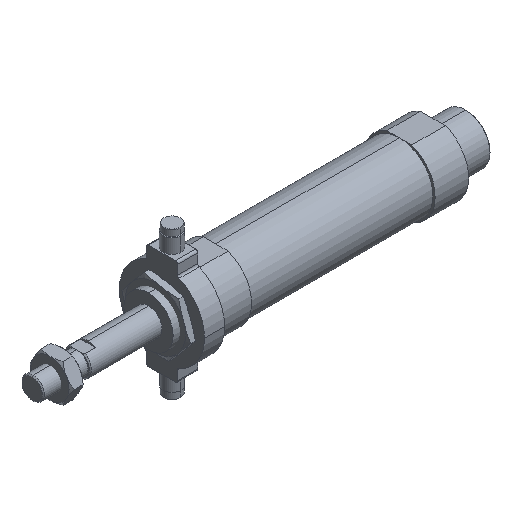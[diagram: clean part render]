
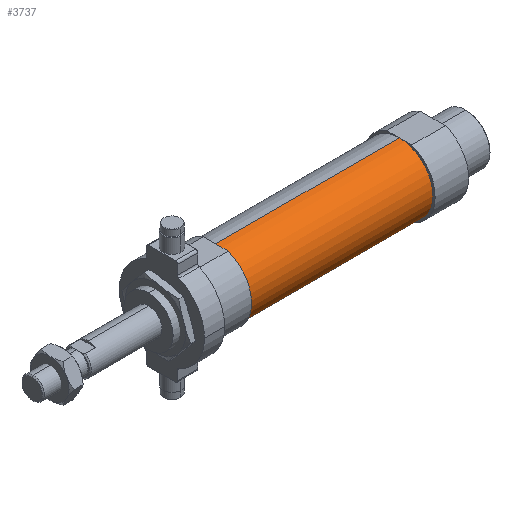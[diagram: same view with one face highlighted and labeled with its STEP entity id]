
A CAD part, isometric view. The second image highlights one B-rep face of the part: STEP entity #3737.
In plain terms, the highlighted cylindrical face has radius 15 mm (diameter 30 mm), a partial arc.
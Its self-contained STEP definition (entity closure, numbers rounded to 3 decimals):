
#32 = AXIS2_PLACEMENT_3D ( 'NONE', #1665, #3551, #1175 ) ;
#101 = VERTEX_POINT ( 'NONE', #748 ) ;
#143 = DIRECTION ( 'NONE',  ( -1., 0., 0. ) ) ;
#144 = EDGE_CURVE ( 'NONE', #101, #3558, #1957, .T. ) ;
#180 = ORIENTED_EDGE ( 'NONE', *, *, #2487, .T. ) ;
#226 = CARTESIAN_POINT ( 'NONE',  ( -6.469, 0., -15. ) ) ;
#282 = FACE_OUTER_BOUND ( 'NONE', #2853, .T. ) ;
#287 = DIRECTION ( 'NONE',  ( -1., 0., 0. ) ) ;
#291 = DIRECTION ( 'NONE',  ( 0., 0., 1. ) ) ;
#309 = VERTEX_POINT ( 'NONE', #1602 ) ;
#748 = CARTESIAN_POINT ( 'NONE',  ( 164., 0., -15. ) ) ;
#804 = DIRECTION ( 'NONE',  ( 0., 0., 1. ) ) ;
#808 = DIRECTION ( 'NONE',  ( -1., 0., 0. ) ) ;
#814 = AXIS2_PLACEMENT_3D ( 'NONE', #4444, #143, #804 ) ;
#876 = CARTESIAN_POINT ( 'NONE',  ( 82., 0., -15. ) ) ;
#1175 = DIRECTION ( 'NONE',  ( 0., 0., 1. ) ) ;
#1401 = ORIENTED_EDGE ( 'NONE', *, *, #3960, .T. ) ;
#1411 = VECTOR ( 'NONE', #287, 1000. ) ;
#1567 = AXIS2_PLACEMENT_3D ( 'NONE', #2090, #808, #291 ) ;
#1602 = CARTESIAN_POINT ( 'NONE',  ( 164., 0., 15. ) ) ;
#1665 = CARTESIAN_POINT ( 'NONE',  ( 164., 0., 0. ) ) ;
#1901 = CIRCLE ( 'NONE', #1567, 15. ) ;
#1957 = LINE ( 'NONE', #226, #3912 ) ;
#2090 = CARTESIAN_POINT ( 'NONE',  ( 82., 0., 0. ) ) ;
#2153 = CARTESIAN_POINT ( 'NONE',  ( 82., 0., 15. ) ) ;
#2227 = LINE ( 'NONE', #3751, #1411 ) ;
#2290 = CIRCLE ( 'NONE', #32, 15. ) ;
#2487 = EDGE_CURVE ( 'NONE', #309, #2775, #2227, .T. ) ;
#2563 = EDGE_CURVE ( 'NONE', #3558, #2775, #1901, .T. ) ;
#2760 = DIRECTION ( 'NONE',  ( -1., 0., 0. ) ) ;
#2775 = VERTEX_POINT ( 'NONE', #2153 ) ;
#2853 = EDGE_LOOP ( 'NONE', ( #3351, #1401, #180, #4142 ) ) ;
#3351 = ORIENTED_EDGE ( 'NONE', *, *, #144, .F. ) ;
#3535 = CYLINDRICAL_SURFACE ( 'NONE', #814, 15. ) ;
#3551 = DIRECTION ( 'NONE',  ( -1., 0., 0. ) ) ;
#3558 = VERTEX_POINT ( 'NONE', #876 ) ;
#3737 = ADVANCED_FACE ( 'NONE', ( #282 ), #3535, .T. ) ;
#3751 = CARTESIAN_POINT ( 'NONE',  ( -6.469, 0., 15. ) ) ;
#3912 = VECTOR ( 'NONE', #2760, 1000. ) ;
#3960 = EDGE_CURVE ( 'NONE', #101, #309, #2290, .T. ) ;
#4142 = ORIENTED_EDGE ( 'NONE', *, *, #2563, .F. ) ;
#4444 = CARTESIAN_POINT ( 'NONE',  ( -6.469, 0., 0. ) ) ;
